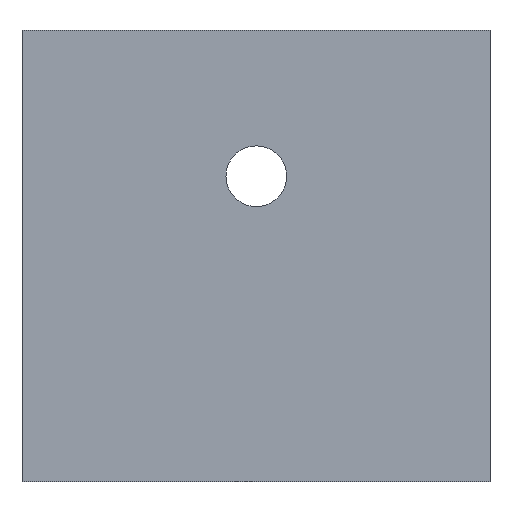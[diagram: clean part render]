
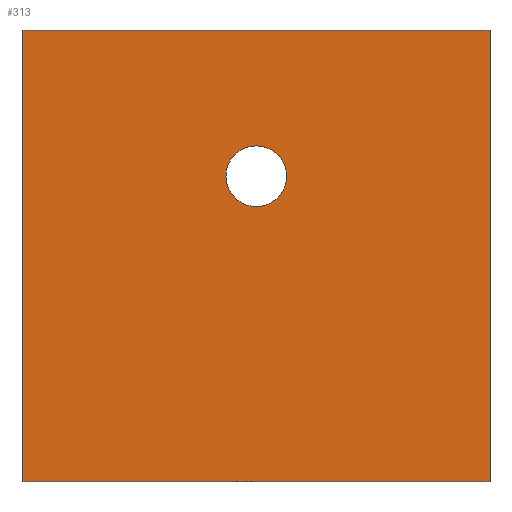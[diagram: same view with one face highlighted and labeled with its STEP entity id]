
A CAD part, front view. The second image highlights one B-rep face of the part: STEP entity #313.
In plain terms, the highlighted planar face has unit normal (0, -1, 0).
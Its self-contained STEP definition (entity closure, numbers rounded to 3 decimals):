
#20=FACE_BOUND('',#78,.T.);
#34=PLANE('',#356);
#53=FACE_OUTER_BOUND('',#77,.T.);
#77=EDGE_LOOP('',(#285,#286,#287,#288));
#78=EDGE_LOOP('',(#289));
#97=LINE('',#511,#126);
#101=LINE('',#518,#130);
#103=LINE('',#522,#132);
#106=LINE('',#527,#135);
#126=VECTOR('',#425,10.);
#130=VECTOR('',#431,10.);
#132=VECTOR('',#435,10.);
#135=VECTOR('',#440,10.);
#146=CIRCLE('',#350,5.);
#166=VERTEX_POINT('',#505);
#167=VERTEX_POINT('',#509);
#168=VERTEX_POINT('',#510);
#170=VERTEX_POINT('',#517);
#171=VERTEX_POINT('',#521);
#200=EDGE_CURVE('',#166,#166,#146,.T.);
#201=EDGE_CURVE('',#167,#168,#97,.T.);
#205=EDGE_CURVE('',#170,#167,#101,.T.);
#207=EDGE_CURVE('',#171,#170,#103,.T.);
#210=EDGE_CURVE('',#168,#171,#106,.T.);
#285=ORIENTED_EDGE('',*,*,#210,.F.);
#286=ORIENTED_EDGE('',*,*,#201,.F.);
#287=ORIENTED_EDGE('',*,*,#205,.F.);
#288=ORIENTED_EDGE('',*,*,#207,.F.);
#289=ORIENTED_EDGE('',*,*,#200,.F.);
#313=ADVANCED_FACE('',(#53,#20),#34,.F.);
#350=AXIS2_PLACEMENT_3D('',#507,#421,#422);
#356=AXIS2_PLACEMENT_3D('',#530,#444,#445);
#421=DIRECTION('center_axis',(0.,-1.,0.));
#422=DIRECTION('ref_axis',(1.,0.,0.));
#425=DIRECTION('',(0.,0.,1.));
#431=DIRECTION('',(-1.,0.,0.));
#435=DIRECTION('',(0.,0.,-1.));
#440=DIRECTION('',(1.,0.,0.));
#444=DIRECTION('center_axis',(0.,1.,0.));
#445=DIRECTION('ref_axis',(1.,0.,0.));
#505=CARTESIAN_POINT('',(33.625,0.,-24.1));
#507=CARTESIAN_POINT('Origin',(38.625,0.,-24.1));
#509=CARTESIAN_POINT('',(0.,0.,-74.5));
#510=CARTESIAN_POINT('',(0.,0.,0.));
#511=CARTESIAN_POINT('',(0.,0.,-74.5));
#517=CARTESIAN_POINT('',(77.15,0.,-74.5));
#518=CARTESIAN_POINT('',(77.15,0.,-74.5));
#521=CARTESIAN_POINT('',(77.15,0.,0.));
#522=CARTESIAN_POINT('',(77.15,0.,0.));
#527=CARTESIAN_POINT('',(0.,0.,0.));
#530=CARTESIAN_POINT('Origin',(38.575,0.,-37.25));
